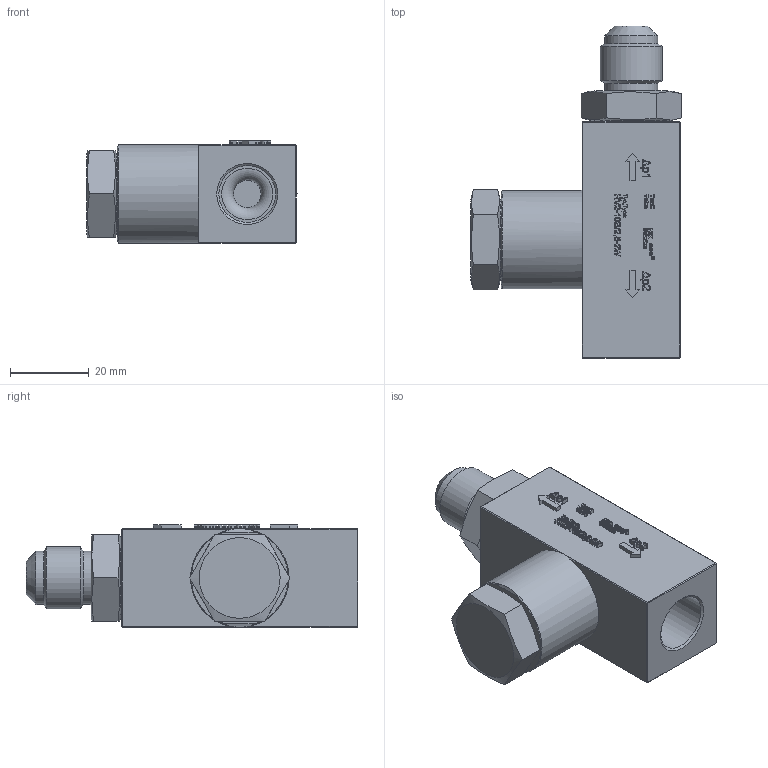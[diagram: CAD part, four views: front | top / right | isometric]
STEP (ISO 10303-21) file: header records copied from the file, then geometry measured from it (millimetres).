
FILE_DESCRIPTION(/* description */ (''),/* implementation_level */ '2;1');
FILE_NAME(/* name */ 'P:\RV\RV2-10B_2,5-2W\RV2-10B-2,5-2W.stp',/* time_stamp */ '2017-10-05T09:04:36+02:00',/* author */ ('neufeld'),/* organization */ (''),/* preprocessor_version */ 'ST-DEVELOPER v16.1',/* originating_system */ 'Autodesk Inventor 2016',/* authorisation */ '');
FILE_SCHEMA (('AUTOMOTIVE_DESIGN { 1 0 10303 214 3 1 1 }'));
Length unit declared in the file: millimetre
Products named in the file (3): RV2-10B-2,5-2W_1; RV2-10B-2,5-2W; RV2-10B-2,5-2W_2
Assembly tree (2 placements, depth 2):
  RV2-10B-2,5-2W_2
    RV2-10B-2,5-2W_1
    RV2-10B-2,5-2W
Bounding box: 53.45 x 84.25 x 26 mm (x, y, z)
Volume: 54104.4 mm3; surface area: 12210.4 mm2
Topology: 1 solids, 1 shells, 966 faces, 2613 edges, 1732 vertices
Faces by surface type: plane 663, bspline 282, cylinder 10, cone 10, torus 1
Full cylindrical faces by diameter (mm): 7 x1, 13.5 x2, 14.4 x1, 15.745 x1, 20.5 x2, 25 x1
Entity records: 32150 total; most frequent: CARTESIAN_POINT 9859, ORIENTED_EDGE 5188, DIRECTION 3406, EDGE_CURVE 2594, LINE 1968, VECTOR 1968, VERTEX_POINT 1730, EDGE_LOOP 1066
